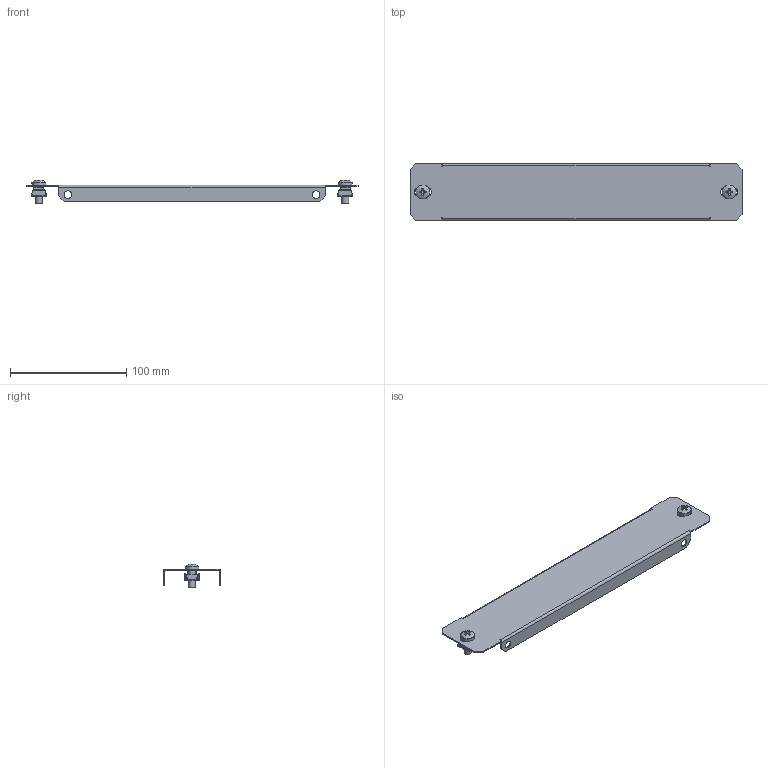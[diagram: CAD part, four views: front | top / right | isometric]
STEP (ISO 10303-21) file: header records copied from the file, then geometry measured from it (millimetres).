
FILE_DESCRIPTION (( 'STEP AP203' ), '1' );
FILE_NAME ('MA1.400.060000.01.00 Ïëàñòðîí Â50 Ø400 EKF AleSta-FP5M400.STEP', '2024-12-02T12:45:09', ( '' ), ( '' ), 'SwSTEP 2.0', 'SolidWorks 2021', '' );
FILE_SCHEMA (( 'CONFIG_CONTROL_DESIGN' ));
Length unit declared in the file: millimetre
Products named in the file (6): Îáîëî÷êà ãàéêè çàêëàäíîé; MA1.400.060000.01.01 Ïëàñòðîí Â50 Ø600 EKF AleSta_˜=400; Ãàéêà çàêëàäêàÿ Ì6; pan head cross recess screw_din_DIN EN ISO 7045 - M6 x 16 - Z - 16N; Ãàéêà çàêëàäíàÿ; MA1.400.060000.01.00 Ïëàñòðîí Â50 Ø400 EKF AleSta-FP5M400
Assembly tree (7 placements, depth 3):
  MA1.400.060000.01.00 Ïëàñòðîí Â50 Ø400 EKF AleSta-FP5M400
    MA1.400.060000.01.01 Ïëàñòðîí Â50 Ø600 EKF AleSta_˜=400
    Ãàéêà çàêëàäíàÿ  x2
      Îáîëî÷êà ãàéêè çàêëàäíîé
      Ãàéêà çàêëàäêàÿ Ì6
    pan head cross recess screw_din_DIN EN ISO 7045 - M6 x 16 - Z - 16N  x2
Bounding box: 286 x 49 x 20.48 mm (x, y, z)
Volume: 21943.7 mm3; surface area: 43154.7 mm2
Topology: 7 solids, 7 shells, 370 faces, 832 edges, 478 vertices
Faces by surface type: plane 242, cylinder 76, bspline 32, cone 14, torus 4, sphere 2
Full cylindrical faces by diameter (mm): 6 x4, 6.5 x4, 7 x2, 12 x2
Entity records: 6996 total; most frequent: CARTESIAN_POINT 1617, DIRECTION 954, ORIENTED_EDGE 952, EDGE_CURVE 476, LINE 336, VECTOR 336, AXIS2_PLACEMENT_3D 309, VERTEX_POINT 284
